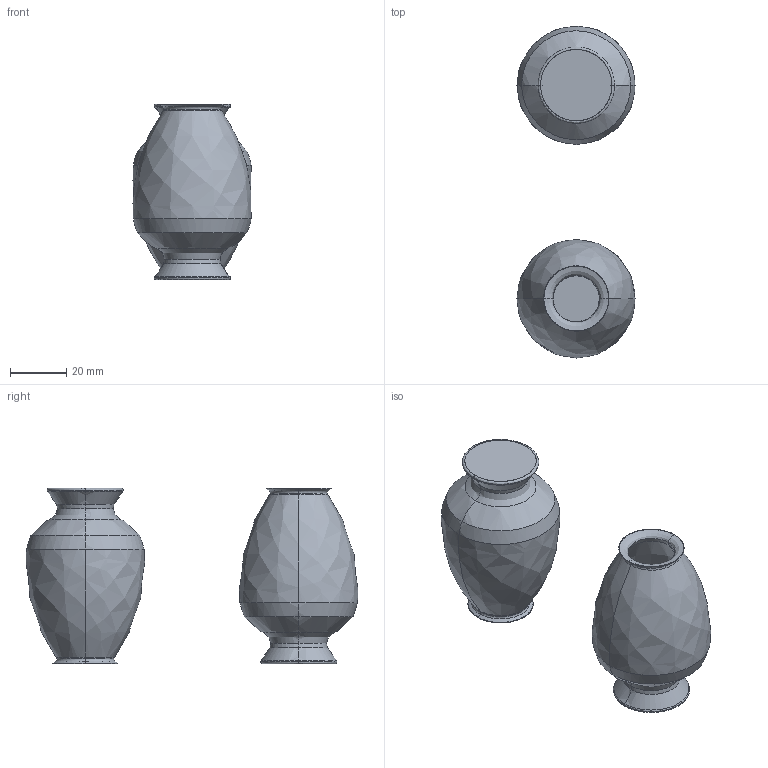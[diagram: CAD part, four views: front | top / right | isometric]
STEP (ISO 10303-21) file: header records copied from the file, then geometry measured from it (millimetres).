
FILE_DESCRIPTION(/* description */ (''),/* implementation_level */ '2;1');
FILE_NAME(/* name */ 'Vase 96',/* time_stamp */ '2025-07-17T09:58:11+02:00',/* author */ (''),/* organization */ (''),/* preprocessor_version */ 'ST-DEVELOPER v16.5',/* originating_system */ 'Rhino 7.37',/* authorisation */ '');
FILE_SCHEMA (('AUTOMOTIVE_DESIGN'));
Length unit declared in the file: millimetre
Products named in the file (1): Document
Bounding box: 41.88 x 117.75 x 62.3 mm (x, y, z)
Surface area: 28717.6 mm2 (no closed solid volume)
Topology: 0 solids, 4 shells, 94 faces, 194 edges, 100 vertices
Faces by surface type: bspline 92, plane 2
Entity records: 9306 total; most frequent: CARTESIAN_POINT 8261, ORIENTED_EDGE 372, EDGE_CURVE 192, VERTEX_POINT 96, ADVANCED_FACE 94, FACE_OUTER_BOUND 94, EDGE_LOOP 94, B_SPLINE_CURVE_WITH_KNOTS 10
